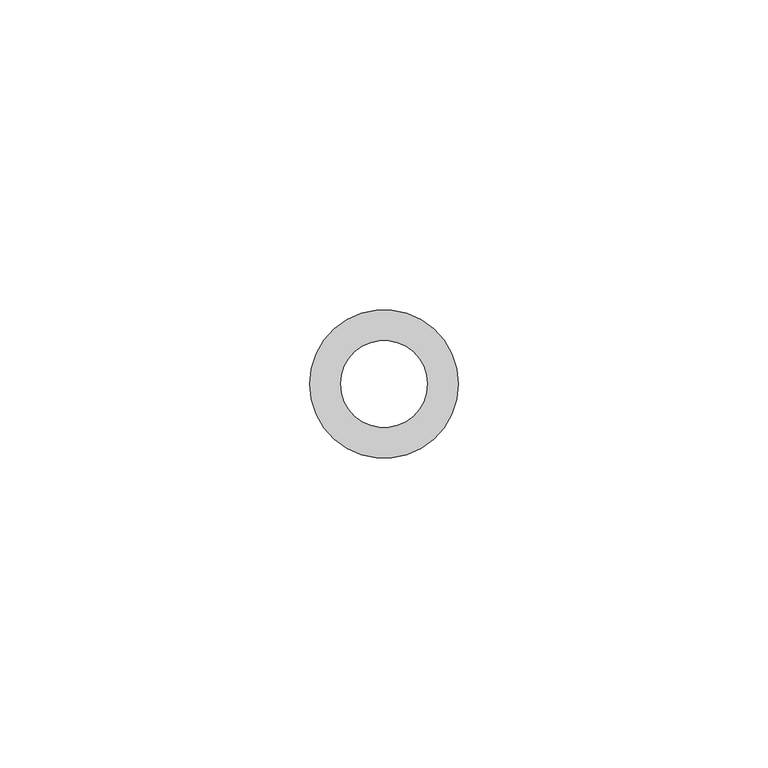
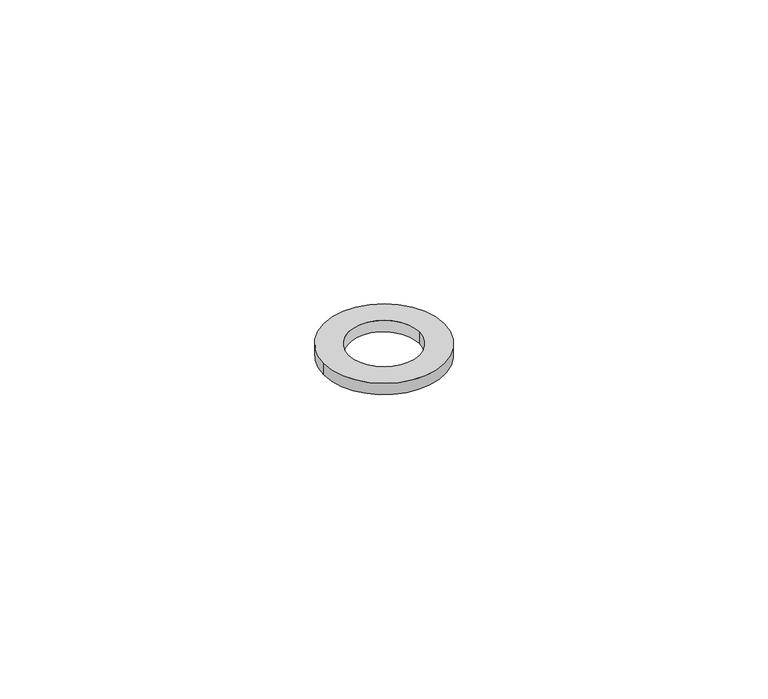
"""IFC4 building model written with IfcOpenShell, lengths in millimetres: fastener geometry, GEN-A-M12 : A-M12."""

from ifc_helpers import new_model, si_unit, point, origin, origin_with_axes, origin_2d, place, context, project, spatial, circle_curve, trimmed, segment, composite_curve, outline, extrude, source, transform, mapped, element, save


def fastener_89f2e246(model_context):
    return source(origin(), model_context, "Body", "SweptSolid", [
        extrude(outline(composite_curve([segment(trimmed(circle_curve(origin_2d(), 12.0), [point((-12.0, 0.0))], [point((12.0, 0.0))], False, "CARTESIAN"), True, "CONTINUOUS"), segment(trimmed(circle_curve(origin_2d(), 12.0), [point((12.0, 0.0))], [point((-12.0, 0.0))], False, "CARTESIAN"), True, "CONTINUOUS")], self_intersect=False), holes=[composite_curve([segment(trimmed(circle_curve(origin_2d(), 7.0), [point((-7.0, 0.0))], [point((7.0, 0.0))], True, "CARTESIAN"), True, "CONTINUOUS"), segment(trimmed(circle_curve(origin_2d(), 7.0), [point((7.0, 0.0))], [point((-7.0, 0.0))], True, "CARTESIAN"), True, "CONTINUOUS")], self_intersect=False)]), origin_with_axes(), (0.0, 0.0, 1.0), 2.3999976),
    ])


if __name__ == "__main__":
    model = new_model("IFC4")
    model_context = context("Model", 3, world=origin())
    ifc_project = project(units=[si_unit("LENGTHUNIT", "METRE", prefix="MILLI")], contexts=[model_context])
    site = spatial("IfcSite", under=ifc_project)
    building = spatial("IfcBuilding", under=site)
    placement = place(None, origin())
    fastener_shape = fastener_89f2e246(model_context)
    element("IfcFastener", 1, ObjectType="GEN-A-M12 : A-M12", at=placement, inside=building, context=model_context, shape_type="MappedRepresentation", body=[
        mapped(fastener_shape, transform((0.0, 0.0, 0.0), x_axis=(1.0, 0.0, 0.0), y_axis=(0.0, 1.0, 0.0), z_axis=(0.0, 0.0, 1.0))),
    ])
    save(model, "model.ifc")
